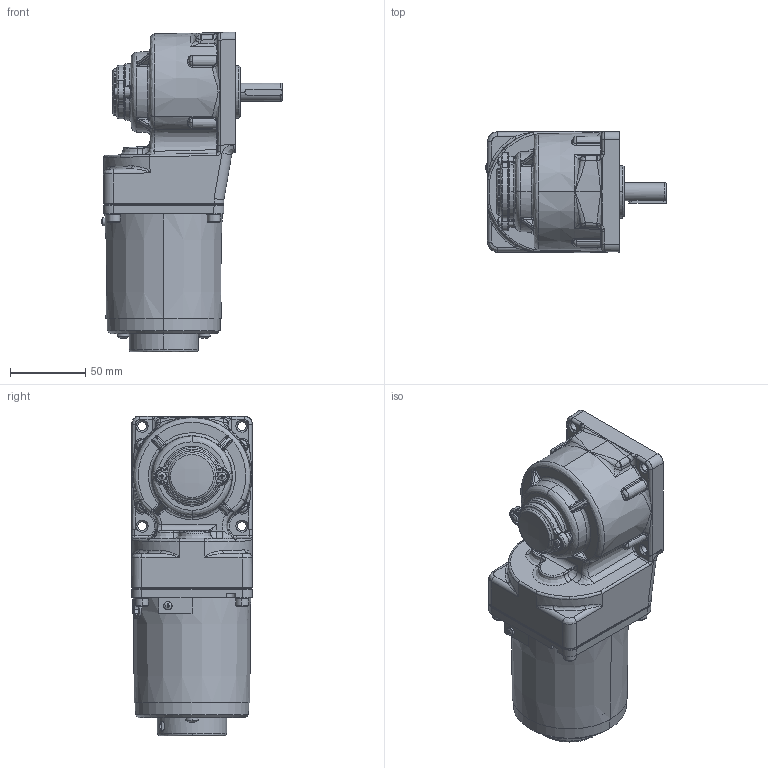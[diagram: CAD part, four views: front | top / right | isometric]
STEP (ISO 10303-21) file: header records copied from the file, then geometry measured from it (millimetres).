
FILE_DESCRIPTION (( 'STEP AP203' ), '1' );
FILE_NAME ('4IK25RGN-CT(4GN3RT-180RT)ÐÂ.STEP', '2022-02-21T09:22:33', ( 'PC' ), ( 'Microsoft' ), 'SwSTEP 2.0', 'SolidWorks 2014', '' );
FILE_SCHEMA (( 'CONFIG_CONTROL_DESIGN' ));
Length unit declared in the file: millimetre
Products named in the file (14): 80眻褒眊裔; zd-4gn1000rc-504-001-20211209（PROE导出的版本）; 80妗陑怀堤粣; 80壔裔; 80綴傷裔; hexagon socket head cap screws gb_GB_FASTENER_SCREWS_HSHCS M4X12-N; cross recessed pan head screws gb_GB_CROSS_SCREWS_TYPE1 M3X6-6  H type-N; PRT0035^ASM0002_ASM_ASM_ASM0001_ASM_ASM_4IK25GN-CT-4GN3-180RC_ASM_ASM_4ik25gn-ct-4gn3-180rt_asm(2)_8; 4IK25GN-C_5_1; 90HXQ_1; PRT0006_1; PRT0041; PRT0043; 4IK25RGN-CT(4GN3RT-180RT)陔
Assembly tree (21 placements, depth 2):
  4IK25RGN-CT(4GN3RT-180RT)陔
    80眻褒眊裔
    zd-4gn1000rc-504-001-20211209（PROE导出的版本）
    80妗陑怀堤粣
    80壔裔
    80綴傷裔
    hexagon socket head cap screws gb_GB_FASTENER_SCREWS_HSHCS M4X12-N  x4
    cross recessed pan head screws gb_GB_CROSS_SCREWS_TYPE1 M3X6-6  H type-N  x2
    PRT0035^ASM0002_ASM_ASM_ASM0001_ASM_ASM_4IK25GN-CT-4GN3-180RC_ASM_ASM_4ik25gn-ct-4gn3-180rt_asm(2)_8  x4
    4IK25GN-C_5_1
    90HXQ_1
    PRT0006_1  x2
    PRT0041
    PRT0043
Bounding box: 120.31 x 80.6 x 212.72 mm (x, y, z)
Volume: 711099.5 mm3; surface area: 159831.3 mm2
Topology: 21 solids, 21 shells, 2736 faces, 6218 edges, 3488 vertices
Faces by surface type: cone 1087, cylinder 763, bspline 474, plane 402, torus 8, sphere 2
Entity records: 80648 total; most frequent: CARTESIAN_POINT 43967, ORIENTED_EDGE 7900, DIRECTION 6468, EDGE_CURVE 3950, AXIS2_PLACEMENT_3D 2550, VERTEX_POINT 2317, EDGE_LOOP 1827, ADVANCED_FACE 1723
